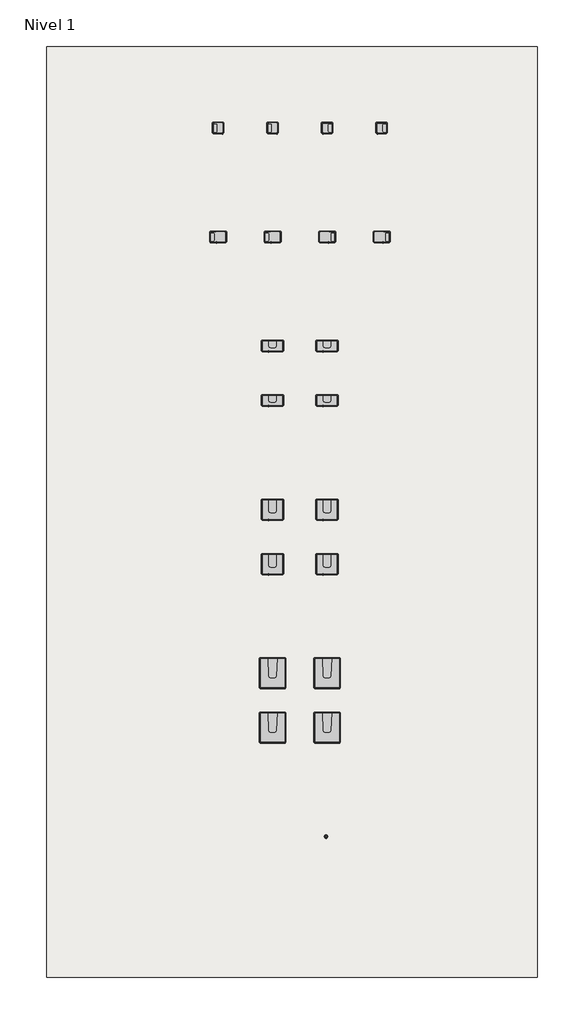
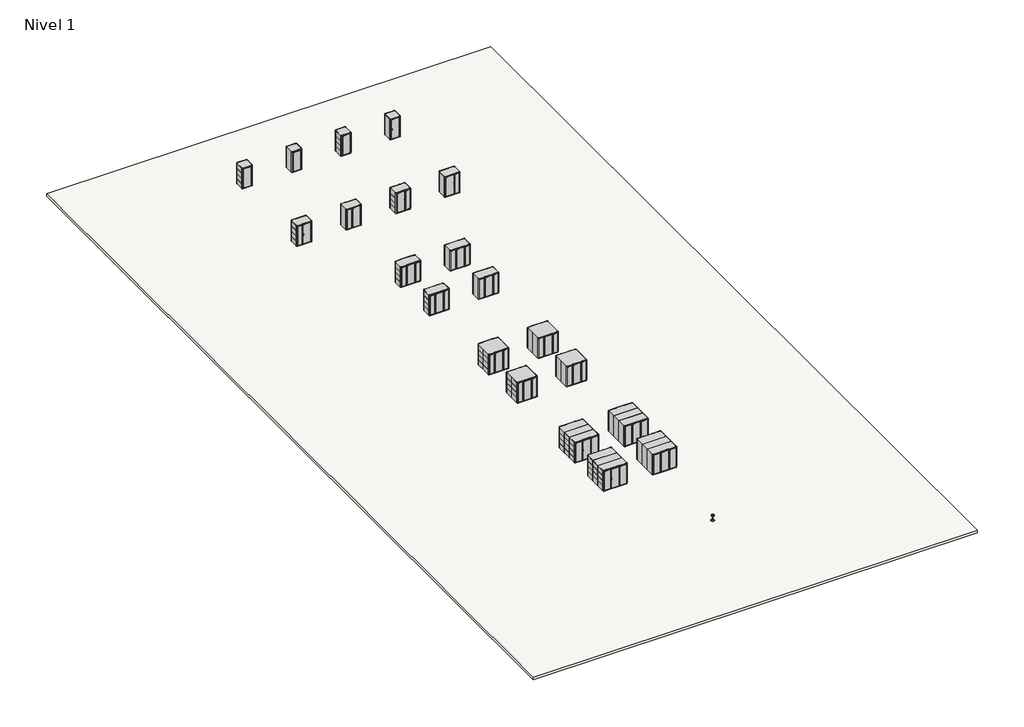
# One storey, incomplete: 21 furniture elements, 1 slab.
"""IFC4 building model written with IfcOpenShell, lengths in millimetres."""

from ifc_helpers import new_model, si_unit, frame, origin, place, context, project, spatial, polyline, outline, extrude, transform, mapped, element, save
from components import furniture_9c70d94f, qy3100_left_fabric_19f7d84a, qy3100_left_fabric_1aad05fc, qy3100_left_melamine_8349982f, qy3101_right_fabric_589a81fd, qy3101_right_fabric_08988c61, qy3101_right_melamine_67ade100, qy3150_fabric_table_74_cm_6e834712, qy3150_fabric_table_74_cm_05d11f60, qy3150_fabric_table_74_cm_f5e0ff44, qy3150_fabric_table_74_cm_9a3328c8, qy3150_melamine_table_106_cm_4c9414e4, qy3150_melamine_table_106_cm_c69a3f73, qy3150_melamine_table_106_cm_0cf5cc71, qy3150_melamine_table_106_cm_c16a6e92, qy3200_fabric_table_74_cm_fe0183bf, qy3200_fabric_table_74_cm_dd0d3239, qy3200_melamine_table_106_cm_6ddf6d1d, qy3200_melamine_table_106_cm_40c4295e, qy3201_fabric_table_74_cm_62a4d738, qy3201_melamine_table_106_cm_8b98e1d3, qy3400_fabric_table_74_cm_427fdd12, qy3400_fabric_table_74_cm_65a14c29, qy3400_melamine_table_106_cm_9113aa5f, qy3400_melamine_table_106_cm_432369fd, qy3401_fabric_table_74_cm_c8840b60, qy3401_melamine_table_106_cm_d2755881, qy3600_fabric_table_74_cm_5cd29c81, qy3600_fabric_table_74_cm_bc0fd264, qy3600_fabric_table_74_cm_c5741240, qy3600_melamine_106_cm_69a632e4, qy3600_melamine_106_cm_6145cd7a, qy3601_fabric_table_74_cm_a77ddb9f, qy3601_melamine_table_106_cm_5577f11d

model = new_model("IFC4")

# Units and contexts
model_context = context("Model", 3, world=origin())
ifc_project = project(units=[si_unit("LENGTHUNIT", "METRE", prefix="MILLI")], contexts=[model_context])

# Site, building, storey
site = spatial("IfcSite", under=ifc_project)
building = spatial("IfcBuilding", under=site)
storey = spatial("IfcBuildingStorey", under=building, Name="Nivel 1", Elevation=0.0)

# Furniture
placement = place(None, origin())
furniture_shape = furniture_9c70d94f(model_context)
element("IfcFurniture", 1, ObjectType="Qyos Stool : Qyos Stool", at=placement, inside=storey, context=model_context, shape_type="MappedRepresentation", body=[
    mapped(furniture_shape, transform((698.4286676, -59441.3752499, 0.0), x_axis=(1.0, 0.0, 0.0), y_axis=(0.0, 1.0, 0.0), z_axis=(0.0, 0.0, 1.0))),
])
qy3100_left_fabric_shape = qy3100_left_fabric_19f7d84a(model_context)
qy3100_left_fabric_2_shape = qy3100_left_fabric_1aad05fc(model_context)
element("IfcFurniture", 2, ObjectType="Qyos_100 : QY3100_LEFT_Fabric", at=placement, inside=storey, context=model_context, shape_type="MappedRepresentation", body=[
    mapped(qy3100_left_fabric_shape, transform((-9201.5713324, 5558.6247501, 0.0), x_axis=(1.0, 0.0, 0.0), y_axis=(0.0, 1.0, 0.0), z_axis=(0.0, 0.0, 1.0))),
    mapped(qy3100_left_fabric_2_shape, transform((-9201.5713324, 5558.6247501, 0.0), x_axis=(1.0, 0.0, 0.0), y_axis=(0.0, 1.0, 0.0), z_axis=(0.0, 0.0, 1.0))),
])
qy3100_left_melamine_shape = qy3100_left_melamine_8349982f(model_context)
element("IfcFurniture", 3, ObjectType="Qyos_100 : QY3100_LEFT_Melamine", at=placement, inside=storey, context=model_context, shape_type="MappedRepresentation", body=[
    mapped(qy3100_left_fabric_shape, transform((-4201.5713324, 5558.6247501, 0.0), x_axis=(1.0, 0.0, 0.0), y_axis=(0.0, 1.0, 0.0), z_axis=(0.0, 0.0, 1.0))),
    mapped(qy3100_left_melamine_shape, transform((-4201.5713324, 5558.6247501, 0.0), x_axis=(1.0, 0.0, 0.0), y_axis=(0.0, 1.0, 0.0), z_axis=(0.0, 0.0, 1.0))),
])
qy3101_right_fabric_shape = qy3101_right_fabric_589a81fd(model_context)
qy3101_right_fabric_2_shape = qy3101_right_fabric_08988c61(model_context)
element("IfcFurniture", 4, ObjectType="Qyos_100 : QY3101_RIGHT_Fabric", at=placement, inside=storey, context=model_context, shape_type="MappedRepresentation", body=[
    mapped(qy3101_right_fabric_shape, transform((798.4286676, 5558.6247501, 0.0), x_axis=(1.0, 0.0, 0.0), y_axis=(0.0, 1.0, 0.0), z_axis=(0.0, 0.0, 1.0))),
    mapped(qy3101_right_fabric_2_shape, transform((798.4286676, 5558.6247501, 0.0), x_axis=(1.0, 0.0, 0.0), y_axis=(0.0, 1.0, 0.0), z_axis=(0.0, 0.0, 1.0))),
])
qy3101_right_melamine_shape = qy3101_right_melamine_67ade100(model_context)
element("IfcFurniture", 5, ObjectType="Qyos_100 : QY3101_RIGHT_Melamine", at=placement, inside=storey, context=model_context, shape_type="MappedRepresentation", body=[
    mapped(qy3101_right_fabric_shape, transform((5798.4286676, 5558.6247501, 0.0), x_axis=(1.0, 0.0, 0.0), y_axis=(0.0, 1.0, 0.0), z_axis=(0.0, 0.0, 1.0))),
    mapped(qy3101_right_melamine_shape, transform((5798.4286676, 5558.6247501, 0.0), x_axis=(1.0, 0.0, 0.0), y_axis=(0.0, 1.0, 0.0), z_axis=(0.0, 0.0, 1.0))),
])
qy3150_fabric_table_74_cm_shape = qy3150_fabric_table_74_cm_6e834712(model_context)
qy3150_fabric_table_74_cm_2_shape = qy3150_fabric_table_74_cm_05d11f60(model_context)
element("IfcFurniture", 6, ObjectType="Qyos_150 : QY3150_Fabric_Table 74 cm", at=placement, inside=storey, context=model_context, shape_type="MappedRepresentation", body=[
    mapped(qy3150_fabric_table_74_cm_shape, transform((-9201.5713324, -4441.3752499, 0.0), x_axis=(1.0, 0.0, 0.0), y_axis=(0.0, 1.0, 0.0), z_axis=(0.0, 0.0, 1.0))),
    mapped(qy3150_fabric_table_74_cm_2_shape, transform((-9201.5713324, -4441.3752499, 0.0), x_axis=(1.0, 0.0, 0.0), y_axis=(0.0, 1.0, 0.0), z_axis=(0.0, 0.0, 1.0))),
])
qy3150_fabric_table_74_cm_3_shape = qy3150_fabric_table_74_cm_f5e0ff44(model_context)
qy3150_fabric_table_74_cm_4_shape = qy3150_fabric_table_74_cm_9a3328c8(model_context)
element("IfcFurniture", 7, ObjectType="Qyos_150 : QY3150_Fabric_Table 74 cm", at=placement, inside=storey, context=model_context, shape_type="MappedRepresentation", body=[
    mapped(qy3150_fabric_table_74_cm_3_shape, transform((798.4286676, -4441.3752499, 0.0), x_axis=(-1.0, 0.0, 0.0), y_axis=(0.0, -1.0, 0.0), z_axis=(0.0, 0.0, 1.0))),
    mapped(qy3150_fabric_table_74_cm_4_shape, transform((798.4286676, -4441.3752499, 0.0), x_axis=(-1.0, 0.0, 0.0), y_axis=(0.0, -1.0, 0.0), z_axis=(0.0, 0.0, 1.0))),
])
qy3150_melamine_table_106_cm_shape = qy3150_melamine_table_106_cm_4c9414e4(model_context)
qy3150_melamine_table_106_cm_2_shape = qy3150_melamine_table_106_cm_c69a3f73(model_context)
element("IfcFurniture", 8, ObjectType="Qyos_150 : QY3150_Melamine_Table 106 cm", at=placement, inside=storey, context=model_context, shape_type="MappedRepresentation", body=[
    mapped(qy3150_melamine_table_106_cm_shape, transform((-4201.5713324, -4441.3752499, 0.0), x_axis=(1.0, 0.0, 0.0), y_axis=(0.0, 1.0, 0.0), z_axis=(0.0, 0.0, 1.0))),
    mapped(qy3150_melamine_table_106_cm_2_shape, transform((-4201.5713324, -4441.3752499, 0.0), x_axis=(1.0, 0.0, 0.0), y_axis=(0.0, 1.0, 0.0), z_axis=(0.0, 0.0, 1.0))),
])
qy3150_melamine_table_106_cm_3_shape = qy3150_melamine_table_106_cm_0cf5cc71(model_context)
qy3150_melamine_table_106_cm_4_shape = qy3150_melamine_table_106_cm_c16a6e92(model_context)
element("IfcFurniture", 9, ObjectType="Qyos_150 : QY3150_Melamine_Table 106 cm", at=placement, inside=storey, context=model_context, shape_type="MappedRepresentation", body=[
    mapped(qy3150_melamine_table_106_cm_3_shape, transform((5798.4286676, -4441.3752499, 0.0), x_axis=(-1.0, 0.0, 0.0), y_axis=(0.0, -1.0, 0.0), z_axis=(0.0, 0.0, 1.0))),
    mapped(qy3150_melamine_table_106_cm_4_shape, transform((5798.4286676, -4441.3752499, 0.0), x_axis=(-1.0, 0.0, 0.0), y_axis=(0.0, -1.0, 0.0), z_axis=(0.0, 0.0, 1.0))),
])
qy3200_fabric_table_74_cm_shape = qy3200_fabric_table_74_cm_fe0183bf(model_context)
qy3200_fabric_table_74_cm_2_shape = qy3200_fabric_table_74_cm_dd0d3239(model_context)
element("IfcFurniture", 10, ObjectType="Qyos_200 : QY3200_Fabric_Table 74 cm", at=placement, inside=storey, context=model_context, shape_type="MappedRepresentation", body=[
    mapped(qy3200_fabric_table_74_cm_shape, transform((-4201.5713324, -14441.3752499, 0.0), x_axis=(1.0, 0.0, 0.0), y_axis=(0.0, 1.0, 0.0), z_axis=(0.0, 0.0, 1.0))),
    mapped(qy3200_fabric_table_74_cm_2_shape, transform((-4201.5713324, -14441.3752499, 0.0), x_axis=(1.0, 0.0, 0.0), y_axis=(0.0, 1.0, 0.0), z_axis=(0.0, 0.0, 1.0))),
])
qy3200_melamine_table_106_cm_shape = qy3200_melamine_table_106_cm_6ddf6d1d(model_context)
qy3200_melamine_table_106_cm_2_shape = qy3200_melamine_table_106_cm_40c4295e(model_context)
element("IfcFurniture", 11, ObjectType="Qyos_200 : QY3200_Melamine_Table 106 cm", at=placement, inside=storey, context=model_context, shape_type="MappedRepresentation", body=[
    mapped(qy3200_melamine_table_106_cm_shape, transform((798.4286676, -14441.3752499, 0.0), x_axis=(1.0, 0.0, 0.0), y_axis=(0.0, 1.0, 0.0), z_axis=(0.0, 0.0, 1.0))),
    mapped(qy3200_melamine_table_106_cm_2_shape, transform((798.4286676, -14441.3752499, 0.0), x_axis=(1.0, 0.0, 0.0), y_axis=(0.0, 1.0, 0.0), z_axis=(0.0, 0.0, 1.0))),
])
qy3201_fabric_table_74_cm_shape = qy3201_fabric_table_74_cm_62a4d738(model_context)
element("IfcFurniture", 12, ObjectType="Qyos_200 : QY3201_Fabric_Table 74 cm", at=placement, inside=storey, context=model_context, shape_type="MappedRepresentation", body=[
    mapped(qy3200_fabric_table_74_cm_shape, transform((-4201.5713324, -19441.3752499, 0.0), x_axis=(1.0, 0.0, 0.0), y_axis=(0.0, 1.0, 0.0), z_axis=(0.0, 0.0, 1.0))),
    mapped(qy3201_fabric_table_74_cm_shape, transform((-4201.5713324, -19441.3752499, 0.0), x_axis=(1.0, 0.0, 0.0), y_axis=(0.0, 1.0, 0.0), z_axis=(0.0, 0.0, 1.0))),
])
qy3201_melamine_table_106_cm_shape = qy3201_melamine_table_106_cm_8b98e1d3(model_context)
element("IfcFurniture", 13, ObjectType="Qyos_200 : QY3201_Melamine_Table 106 cm", at=placement, inside=storey, context=model_context, shape_type="MappedRepresentation", body=[
    mapped(qy3200_melamine_table_106_cm_shape, transform((798.4286676, -19441.3752499, 0.0), x_axis=(1.0, 0.0, 0.0), y_axis=(0.0, 1.0, 0.0), z_axis=(0.0, 0.0, 1.0))),
    mapped(qy3201_melamine_table_106_cm_shape, transform((798.4286676, -19441.3752499, 0.0), x_axis=(1.0, 0.0, 0.0), y_axis=(0.0, 1.0, 0.0), z_axis=(0.0, 0.0, 1.0))),
])
qy3400_fabric_table_74_cm_shape = qy3400_fabric_table_74_cm_427fdd12(model_context)
qy3400_fabric_table_74_cm_2_shape = qy3400_fabric_table_74_cm_65a14c29(model_context)
element("IfcFurniture", 14, ObjectType="Qyos_400 : QY3400_Fabric_Table 74 cm", at=placement, inside=storey, context=model_context, shape_type="MappedRepresentation", body=[
    mapped(qy3400_fabric_table_74_cm_shape, transform((-4201.5713324, -29441.3752499, 0.0), x_axis=(1.0, 0.0, 0.0), y_axis=(0.0, 1.0, 0.0), z_axis=(0.0, 0.0, 1.0))),
    mapped(qy3400_fabric_table_74_cm_2_shape, transform((-4201.5713324, -29441.3752499, 0.0), x_axis=(1.0, 0.0, 0.0), y_axis=(0.0, 1.0, 0.0), z_axis=(0.0, 0.0, 1.0))),
])
qy3400_melamine_table_106_cm_shape = qy3400_melamine_table_106_cm_9113aa5f(model_context)
qy3400_melamine_table_106_cm_2_shape = qy3400_melamine_table_106_cm_432369fd(model_context)
element("IfcFurniture", 15, ObjectType="Qyos_400 : QY3400_Melamine_Table 106 cm", at=placement, inside=storey, context=model_context, shape_type="MappedRepresentation", body=[
    mapped(qy3400_melamine_table_106_cm_shape, transform((798.4286676, -29441.3752499, 0.0), x_axis=(1.0, 0.0, 0.0), y_axis=(0.0, 1.0, 0.0), z_axis=(0.0, 0.0, 1.0))),
    mapped(qy3400_melamine_table_106_cm_2_shape, transform((798.4286676, -29441.3752499, 0.0), x_axis=(1.0, 0.0, 0.0), y_axis=(0.0, 1.0, 0.0), z_axis=(0.0, 0.0, 1.0))),
])
qy3401_fabric_table_74_cm_shape = qy3401_fabric_table_74_cm_c8840b60(model_context)
element("IfcFurniture", 16, ObjectType="Qyos_400 : QY3401_Fabric_Table 74 cm", at=placement, inside=storey, context=model_context, shape_type="MappedRepresentation", body=[
    mapped(qy3400_fabric_table_74_cm_shape, transform((-4201.5713324, -34441.3752499, 0.0), x_axis=(1.0, 0.0, 0.0), y_axis=(0.0, 1.0, 0.0), z_axis=(0.0, 0.0, 1.0))),
    mapped(qy3401_fabric_table_74_cm_shape, transform((-4201.5713324, -34441.3752499, 0.0), x_axis=(1.0, 0.0, 0.0), y_axis=(0.0, 1.0, 0.0), z_axis=(0.0, 0.0, 1.0))),
])
qy3401_melamine_table_106_cm_shape = qy3401_melamine_table_106_cm_d2755881(model_context)
element("IfcFurniture", 17, ObjectType="Qyos_400 : QY3401_Melamine_Table 106 cm", at=placement, inside=storey, context=model_context, shape_type="MappedRepresentation", body=[
    mapped(qy3400_melamine_table_106_cm_shape, transform((798.4286676, -34441.3752499, 0.0), x_axis=(1.0, 0.0, 0.0), y_axis=(0.0, 1.0, 0.0), z_axis=(0.0, 0.0, 1.0))),
    mapped(qy3401_melamine_table_106_cm_shape, transform((798.4286676, -34441.3752499, 0.0), x_axis=(1.0, 0.0, 0.0), y_axis=(0.0, 1.0, 0.0), z_axis=(0.0, 0.0, 1.0))),
])
qy3600_fabric_table_74_cm_shape = qy3600_fabric_table_74_cm_5cd29c81(model_context)
qy3600_fabric_table_74_cm_2_shape = qy3600_fabric_table_74_cm_bc0fd264(model_context)
qy3600_fabric_table_74_cm_3_shape = qy3600_fabric_table_74_cm_c5741240(model_context)
element("IfcFurniture", 18, ObjectType="Qyos_600 : QY3600_Fabric_Table 74 cm", at=placement, inside=storey, context=model_context, shape_type="MappedRepresentation", body=[
    mapped(qy3600_fabric_table_74_cm_shape, transform((-4201.5713324, -44441.3752499, 0.0), x_axis=(1.0, 0.0, 0.0), y_axis=(0.0, 1.0, 0.0), z_axis=(0.0, 0.0, 1.0))),
    mapped(qy3600_fabric_table_74_cm_2_shape, transform((-4201.5713324, -44441.3752499, 0.0), x_axis=(1.0, 0.0, 0.0), y_axis=(0.0, 1.0, 0.0), z_axis=(0.0, 0.0, 1.0))),
    mapped(qy3600_fabric_table_74_cm_3_shape, transform((-4201.5713324, -44441.3752499, 0.0), x_axis=(1.0, 0.0, 0.0), y_axis=(0.0, 1.0, 0.0), z_axis=(0.0, 0.0, 1.0))),
])
qy3600_melamine_106_cm_shape = qy3600_melamine_106_cm_69a632e4(model_context)
qy3600_melamine_106_cm_2_shape = qy3600_melamine_106_cm_6145cd7a(model_context)
element("IfcFurniture", 19, ObjectType="Qyos_600 : QY3600_Melamine_106 cm", at=placement, inside=storey, context=model_context, shape_type="MappedRepresentation", body=[
    mapped(qy3600_fabric_table_74_cm_shape, transform((798.4286676, -44441.3752499, 0.0), x_axis=(1.0, 0.0, 0.0), y_axis=(0.0, 1.0, 0.0), z_axis=(0.0, 0.0, 1.0))),
    mapped(qy3600_melamine_106_cm_shape, transform((798.4286676, -44441.3752499, 0.0), x_axis=(1.0, 0.0, 0.0), y_axis=(0.0, 1.0, 0.0), z_axis=(0.0, 0.0, 1.0))),
    mapped(qy3600_melamine_106_cm_2_shape, transform((798.4286676, -44441.3752499, 0.0), x_axis=(1.0, 0.0, 0.0), y_axis=(0.0, 1.0, 0.0), z_axis=(0.0, 0.0, 1.0))),
])
qy3601_fabric_table_74_cm_shape = qy3601_fabric_table_74_cm_a77ddb9f(model_context)
element("IfcFurniture", 20, ObjectType="Qyos_600 : QY3601_Fabric_Table 74 cm", at=placement, inside=storey, context=model_context, shape_type="MappedRepresentation", body=[
    mapped(qy3600_fabric_table_74_cm_shape, transform((-4201.5713324, -49441.3752499, 0.0), x_axis=(1.0, 0.0, 0.0), y_axis=(0.0, 1.0, 0.0), z_axis=(0.0, 0.0, 1.0))),
    mapped(qy3600_fabric_table_74_cm_2_shape, transform((-4201.5713324, -49441.3752499, 0.0), x_axis=(1.0, 0.0, 0.0), y_axis=(0.0, 1.0, 0.0), z_axis=(0.0, 0.0, 1.0))),
    mapped(qy3601_fabric_table_74_cm_shape, transform((-4201.5713324, -49441.3752499, 0.0), x_axis=(1.0, 0.0, 0.0), y_axis=(0.0, 1.0, 0.0), z_axis=(0.0, 0.0, 1.0))),
])
qy3601_melamine_table_106_cm_shape = qy3601_melamine_table_106_cm_5577f11d(model_context)
element("IfcFurniture", 21, ObjectType="Qyos_600 : QY3601_Melamine_Table 106 cm", at=placement, inside=storey, context=model_context, shape_type="MappedRepresentation", body=[
    mapped(qy3600_fabric_table_74_cm_shape, transform((798.4286676, -49441.3752499, 0.0), x_axis=(1.0, 0.0, 0.0), y_axis=(0.0, 1.0, 0.0), z_axis=(0.0, 0.0, 1.0))),
    mapped(qy3600_melamine_106_cm_shape, transform((798.4286676, -49441.3752499, 0.0), x_axis=(1.0, 0.0, 0.0), y_axis=(0.0, 1.0, 0.0), z_axis=(0.0, 0.0, 1.0))),
    mapped(qy3601_melamine_table_106_cm_shape, transform((798.4286676, -49441.3752499, 0.0), x_axis=(1.0, 0.0, 0.0), y_axis=(0.0, 1.0, 0.0), z_axis=(0.0, 0.0, 1.0))),
])

# Slab
element("IfcSlab", 22, ObjectType="Por defecto - 30 cm", at=placement, inside=storey, context=model_context, shape_type="SweptSolid", body=[
    extrude(outline(polyline([(20060.5018965, 13040.8071483), (20060.5018965, -72359.1928517), (-24939.4981035, -72359.1928517), (-24939.4981035, 13040.8071483), (20060.5018965, 13040.8071483)])), frame((0.0, 0.0, -300.0), z_axis=(0.0, 0.0, 1.0), x_axis=(1.0, 0.0, 0.0)), (0.0, 0.0, 1.0), 300.0),
])

save(model, "model.ifc")
